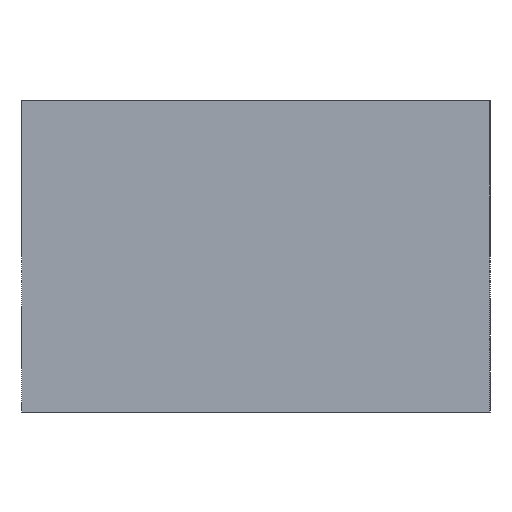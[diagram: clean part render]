
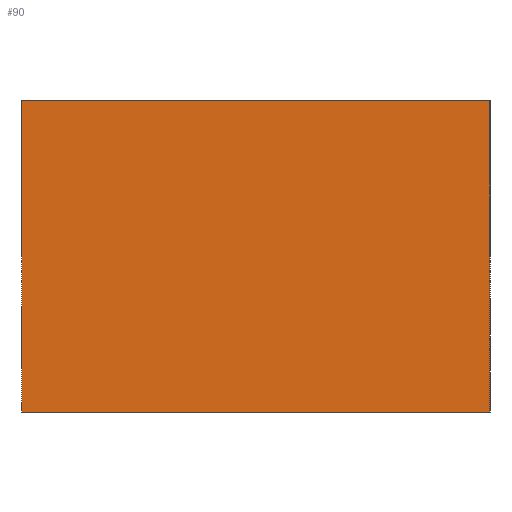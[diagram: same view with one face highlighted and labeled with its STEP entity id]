
A CAD part, left-side view. The second image highlights one B-rep face of the part: STEP entity #90.
In plain terms, the highlighted planar face has unit normal (-1, 0, 0).
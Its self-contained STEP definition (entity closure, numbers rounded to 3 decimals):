
#85=FACE_OUTER_BOUND('',#304,.T.);
#90=ADVANCED_FACE('',(#85),#141,.T.);
#141=PLANE('',#711);
#155=LINE('',#1028,#167);
#157=LINE('',#1040,#169);
#159=LINE('',#1052,#171);
#162=LINE('',#1062,#174);
#167=VECTOR('',#809,1.);
#169=VECTOR('',#821,1.);
#171=VECTOR('',#833,1.);
#174=VECTOR('',#842,1.);
#304=EDGE_LOOP('',(#419,#420,#421,#422));
#419=ORIENTED_EDGE('',*,*,#594,.T.);
#420=ORIENTED_EDGE('',*,*,#588,.T.);
#421=ORIENTED_EDGE('',*,*,#600,.F.);
#422=ORIENTED_EDGE('',*,*,#605,.T.);
#522=VERTEX_POINT('',#1023);
#524=VERTEX_POINT('',#1027);
#530=VERTEX_POINT('',#1041);
#535=VERTEX_POINT('',#1053);
#588=EDGE_CURVE('',#522,#524,#155,.T.);
#594=EDGE_CURVE('',#530,#522,#157,.T.);
#600=EDGE_CURVE('',#535,#524,#159,.T.);
#605=EDGE_CURVE('',#535,#530,#162,.T.);
#711=AXIS2_PLACEMENT_3D('',#1063,#843,#844);
#809=DIRECTION('',(0.,1.,0.));
#821=DIRECTION('',(0.,0.,1.));
#833=DIRECTION('',(0.,0.,1.));
#842=DIRECTION('',(0.,-1.,0.));
#843=DIRECTION('',(-1.,0.,0.));
#844=DIRECTION('',(0.,0.,1.));
#1023=CARTESIAN_POINT('',(-47.5,-37.5,0.));
#1027=CARTESIAN_POINT('',(-47.5,37.5,0.));
#1028=CARTESIAN_POINT('',(-47.5,0.,0.));
#1040=CARTESIAN_POINT('',(-47.5,-37.5,-50.));
#1041=CARTESIAN_POINT('',(-47.5,-37.5,-50.));
#1052=CARTESIAN_POINT('',(-47.5,37.5,-50.));
#1053=CARTESIAN_POINT('',(-47.5,37.5,-50.));
#1062=CARTESIAN_POINT('',(-47.5,0.,-50.));
#1063=CARTESIAN_POINT('',(-47.5,0.,-50.));
